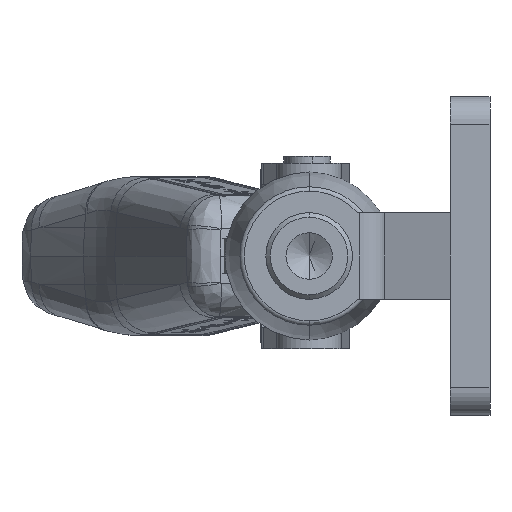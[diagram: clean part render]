
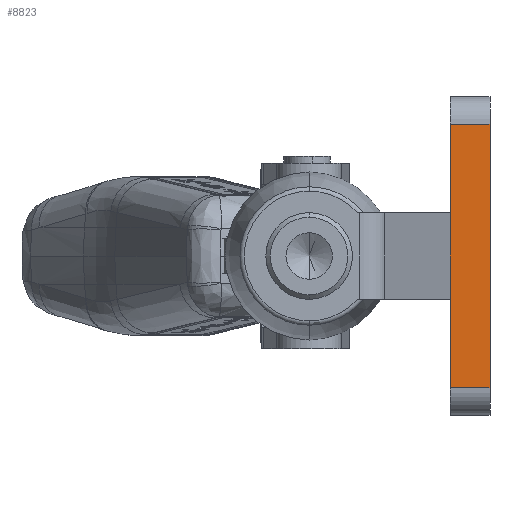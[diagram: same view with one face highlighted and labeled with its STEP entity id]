
A CAD part, left-side view. The second image highlights one B-rep face of the part: STEP entity #8823.
In plain terms, the highlighted planar face has unit normal (-1, 0, 0).
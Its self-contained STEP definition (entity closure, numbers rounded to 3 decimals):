
#326 = VERTEX_POINT ( 'NONE', #30356 ) ;
#895 = CARTESIAN_POINT ( 'NONE',  ( -40., 8.8, 29. ) ) ;
#2687 = CARTESIAN_POINT ( 'NONE',  ( -40., 8.8, -35. ) ) ;
#3385 = VERTEX_POINT ( 'NONE', #18756 ) ;
#3784 = VERTEX_POINT ( 'NONE', #9220 ) ;
#4563 = CARTESIAN_POINT ( 'NONE',  ( -40., 8.8, -9.5 ) ) ;
#5223 = LINE ( 'NONE', #39888, #13876 ) ;
#5241 = EDGE_CURVE ( 'NONE', #3784, #326, #35789, .T. ) ;
#5244 = AXIS2_PLACEMENT_3D ( 'NONE', #29762, #13631, #36318 ) ;
#5291 = CARTESIAN_POINT ( 'NONE',  ( -40., 8.8, -29. ) ) ;
#6893 = CARTESIAN_POINT ( 'NONE',  ( -40., 0., -29. ) ) ;
#7203 = VECTOR ( 'NONE', #12640, 1000. ) ;
#8823 = ADVANCED_FACE ( 'NONE', ( #18604 ), #26502, .F. ) ;
#9220 = CARTESIAN_POINT ( 'NONE',  ( -40., 8.8, 9.5 ) ) ;
#9237 = ORIENTED_EDGE ( 'NONE', *, *, #5241, .F. ) ;
#9619 = CARTESIAN_POINT ( 'NONE',  ( -40., 8.8, -35. ) ) ;
#10360 = LINE ( 'NONE', #9619, #17968 ) ;
#12640 = DIRECTION ( 'NONE',  ( 0., 0., -1. ) ) ;
#13134 = LINE ( 'NONE', #895, #31368 ) ;
#13219 = EDGE_CURVE ( 'NONE', #3385, #18890, #10360, .T. ) ;
#13631 = DIRECTION ( 'NONE',  ( 1., 0., 0. ) ) ;
#13876 = VECTOR ( 'NONE', #17194, 1000. ) ;
#14327 = EDGE_CURVE ( 'NONE', #22798, #34341, #5223, .T. ) ;
#15568 = ORIENTED_EDGE ( 'NONE', *, *, #18772, .T. ) ;
#16890 = LINE ( 'NONE', #38450, #7203 ) ;
#17194 = DIRECTION ( 'NONE',  ( 0., 0., 1. ) ) ;
#17366 = VECTOR ( 'NONE', #27967, 1000. ) ;
#17509 = VECTOR ( 'NONE', #22100, 1000. ) ;
#17968 = VECTOR ( 'NONE', #42088, 1000. ) ;
#18604 = FACE_OUTER_BOUND ( 'NONE', #25224, .T. ) ;
#18756 = CARTESIAN_POINT ( 'NONE',  ( -40., 8.8, -29. ) ) ;
#18772 = EDGE_CURVE ( 'NONE', #34341, #326, #13134, .T. ) ;
#18890 = VERTEX_POINT ( 'NONE', #4563 ) ;
#22100 = DIRECTION ( 'NONE',  ( 0., 0., 1. ) ) ;
#22798 = VERTEX_POINT ( 'NONE', #6893 ) ;
#23561 = DIRECTION ( 'NONE',  ( 0., 1., 0. ) ) ;
#25224 = EDGE_LOOP ( 'NONE', ( #28115, #15568, #9237, #36091, #41658, #26846 ) ) ;
#26502 = PLANE ( 'NONE',  #5244 ) ;
#26846 = ORIENTED_EDGE ( 'NONE', *, *, #30083, .T. ) ;
#27967 = DIRECTION ( 'NONE',  ( 0., -1., 0. ) ) ;
#28008 = CARTESIAN_POINT ( 'NONE',  ( -40., 0., 29. ) ) ;
#28115 = ORIENTED_EDGE ( 'NONE', *, *, #14327, .T. ) ;
#29762 = CARTESIAN_POINT ( 'NONE',  ( -40., 8.8, -35. ) ) ;
#30083 = EDGE_CURVE ( 'NONE', #3385, #22798, #34624, .T. ) ;
#30356 = CARTESIAN_POINT ( 'NONE',  ( -40., 8.8, 29. ) ) ;
#31368 = VECTOR ( 'NONE', #23561, 1000. ) ;
#34341 = VERTEX_POINT ( 'NONE', #28008 ) ;
#34624 = LINE ( 'NONE', #5291, #17366 ) ;
#35789 = LINE ( 'NONE', #2687, #17509 ) ;
#36091 = ORIENTED_EDGE ( 'NONE', *, *, #38445, .T. ) ;
#36318 = DIRECTION ( 'NONE',  ( 0., 0., -1. ) ) ;
#38445 = EDGE_CURVE ( 'NONE', #3784, #18890, #16890, .T. ) ;
#38450 = CARTESIAN_POINT ( 'NONE',  ( -40., 8.8, 9.5 ) ) ;
#39888 = CARTESIAN_POINT ( 'NONE',  ( -40., 0., -35. ) ) ;
#41658 = ORIENTED_EDGE ( 'NONE', *, *, #13219, .F. ) ;
#42088 = DIRECTION ( 'NONE',  ( 0., 0., 1. ) ) ;
